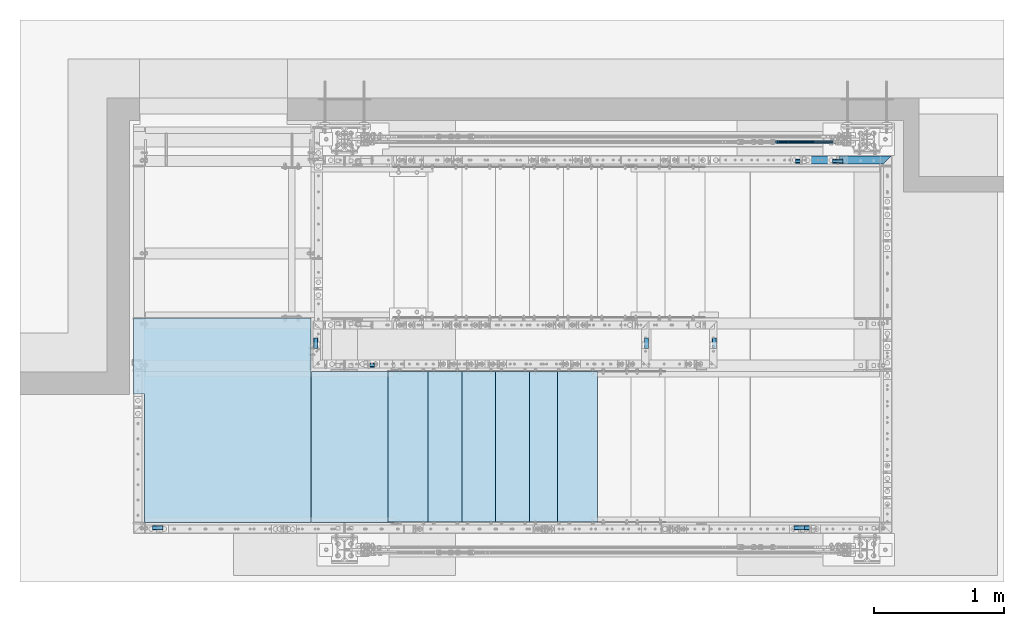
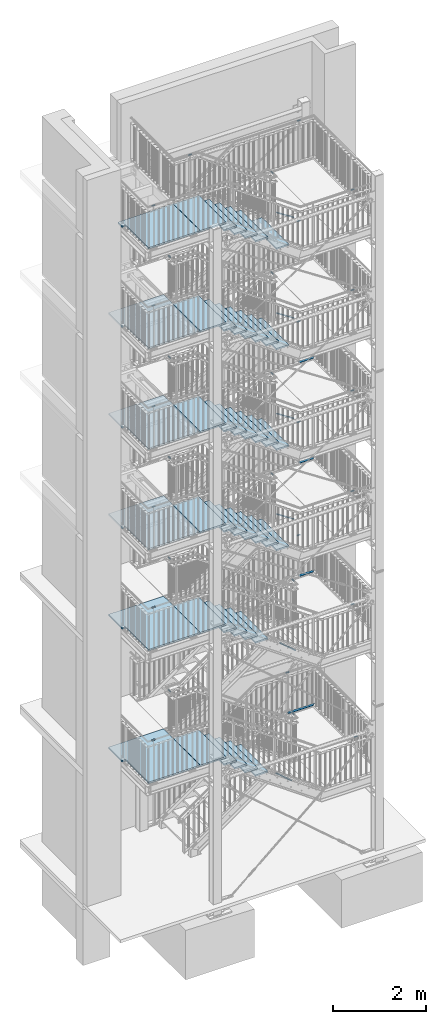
# One storey, part 144 of 831: 43 plates, 34 beams, 6 members, 9 openings.
"""IFC2X3 building model written with IfcOpenShell, lengths in millimetres."""

import ifcopenshell
import ifcopenshell.guid

model = None  # the IFC model being written
_history = None  # IfcOwnerHistory: only IFC2X3 demands one
_inside = {}  # id of a spatial element -> (the spatial element, [elements in it])
_under = {}  # id of a project, library or spatial element -> (it, [spatial elements below it])
_declared = {}  # id of a project -> (the project, [libraries it declares])
_typed = {}  # id of a type object -> (the type object, [elements of that type])
_made_of = {}  # id of a material, layer set ... -> (it, [elements and type objects made of it])


def new_model(schema):
    """Start an empty IFC model of exactly this schema.

    Asked for "IFC4X3", IfcOpenShell would pick the latest addendum, in which some entities
    have other attributes; the version numbers below select the first issue.
    IFC2X3 requires an IfcOwnerHistory on every rooted entity: one is made here for all.
    """
    global model, _history
    if schema == "IFC4X3":
        model = ifcopenshell.file(schema_version=(4, 3, 0, 0))
    else:
        model = ifcopenshell.file(schema=schema)
    _inside.clear()
    _under.clear()
    _declared.clear()
    _typed.clear()
    _made_of.clear()
    _history = None
    if model.schema == "IFC2X3":
        org = make("IfcOrganization", Name="unknown")
        user = make(
            "IfcPersonAndOrganization",
            ThePerson=make("IfcPerson", FamilyName="unknown"),
            TheOrganization=org,
        )
        app = make(
            "IfcApplication",
            ApplicationDeveloper=org,
            Version="unknown",
            ApplicationFullName="unknown",
            ApplicationIdentifier="unknown",
        )
        _history = make(
            "IfcOwnerHistory",
            OwningUser=user,
            OwningApplication=app,
            ChangeAction="ADDED",
            CreationDate=0,
        )
    return model


def make(cls, **values):
    """One entity of the class cls with the attributes given. An attribute that is None is left unset."""
    return model.create_entity(
        cls, **{name: value for name, value in values.items() if value is not None}
    )


def entity(cls, *values):
    """Any entity or typed value of the class cls, its attributes in the order of the schema. None: left unset."""
    e = model.create_entity(cls)
    for i, value in enumerate(values):
        if value is not None:
            e[i] = value
    return e


def rooted(cls, **values):
    """An entity with a GlobalId (a new one), such as an element, a storey or a relation."""
    return make(cls, GlobalId=ifcopenshell.guid.new(), OwnerHistory=_history, **values)


def si_unit(unit_type, name, prefix=None):
    """IfcSIUnit, for example si_unit("LENGTHUNIT", "METRE", prefix="MILLI")."""
    return make("IfcSIUnit", UnitType=unit_type, Prefix=prefix, Name=name)


def converted_unit(unit_type, name, factor, base, dimensions=None, offset=None):
    """IfcConversionBasedUnit, such as the inch: factor (a typed value) times the base unit."""
    return make(
        "IfcConversionBasedUnit"
        if offset is None
        else "IfcConversionBasedUnitWithOffset",
        ConversionOffset=offset,
        Dimensions=None
        if dimensions is None
        else entity("IfcDimensionalExponents", *dimensions),
        UnitType=unit_type,
        Name=name,
        ConversionFactor=make(
            "IfcMeasureWithUnit", ValueComponent=factor, UnitComponent=base
        ),
    )


def assignment(units):
    """IfcUnitAssignment: the units of a project."""
    return None if units is None else make("IfcUnitAssignment", Units=units)


def point(xyz):
    """IfcCartesianPoint."""
    return None if xyz is None else make("IfcCartesianPoint", Coordinates=xyz)


def direction(xyz):
    """IfcDirection."""
    return None if xyz is None else make("IfcDirection", DirectionRatios=xyz)


def frame(location, z_axis=None, x_axis=None):
    """IfcAxis2Placement3D, a coordinate frame: its origin and axes. An axis left out is left unset."""
    return make(
        "IfcAxis2Placement3D",
        Location=point(location),
        Axis=direction(z_axis),
        RefDirection=direction(x_axis),
    )


def frame_2d(location, x_axis=None):
    """IfcAxis2Placement2D, a coordinate frame in the plane: its origin and x axis."""
    return make(
        "IfcAxis2Placement2D", Location=point(location), RefDirection=direction(x_axis)
    )


def origin():
    """The frame at (0, 0, 0) with its axes left unset."""
    return frame((0.0, 0.0, 0.0))


def origin_with_axes():
    """The frame at (0, 0, 0) with the z axis (0, 0, 1) and the x axis (1, 0, 0) written out."""
    return frame((0.0, 0.0, 0.0), z_axis=(0.0, 0.0, 1.0), x_axis=(1.0, 0.0, 0.0))


def origin_2d():
    """The frame at (0, 0) in the plane with its x axis left unset."""
    return frame_2d((0.0, 0.0))


def origin_2d_with_axis():
    """The frame at (0, 0) in the plane with the x axis (1, 0) written out."""
    return frame_2d((0.0, 0.0), x_axis=(1.0, 0.0))


def place(relative_to, where):
    """IfcLocalPlacement: puts the frame where relative to a parent placement (None: the world)."""
    return make(
        "IfcLocalPlacement", PlacementRelTo=relative_to, RelativePlacement=where
    )


def context(
    kind, dimensions, precision=None, world=None, true_north=None, identifier=None
):
    """IfcGeometricRepresentationContext, for example the 3D "Model" context."""
    return make(
        "IfcGeometricRepresentationContext",
        ContextIdentifier=identifier,
        ContextType=kind,
        CoordinateSpaceDimension=dimensions,
        Precision=precision,
        WorldCoordinateSystem=world,
        TrueNorth=true_north,
    )


def project(units=None, contexts=None):
    """IfcProject with its units and contexts."""
    return rooted(
        "IfcProject",
        Name="project",
        RepresentationContexts=contexts,
        UnitsInContext=assignment(units),
    )


def spatial(cls, under=None, at=None, **own):
    """A site, building, storey or space (cls), placed at a placement, below another one or the project."""
    s = rooted(cls, ObjectPlacement=at, **own)
    if under is not None:
        _under.setdefault(under.id(), (under, []))[1].append(s)
    return s


def polyline(points):
    """IfcPolyline through the points."""
    return make("IfcPolyline", Points=[point(p) for p in points])


def profile(cls, at=None, kind="AREA", **sizes):
    """A parametric profile (cls). Its sizes go by their IFC names, for example OverallWidth=200.0."""
    return make(cls, ProfileType=kind, Position=at, **sizes)


def rectangle(**sizes):
    """IfcRectangleProfileDef."""
    return profile("IfcRectangleProfileDef", **sizes)


def circle(**sizes):
    """IfcCircleProfileDef."""
    return profile("IfcCircleProfileDef", **sizes)


def hollow_circle(**sizes):
    """IfcCircleHollowProfileDef."""
    return profile("IfcCircleHollowProfileDef", **sizes)


def outline(outer, holes=None, kind="AREA"):
    """IfcArbitraryClosedProfileDef: a profile drawn as a closed curve; with holes, ...WithVoids."""
    if holes is None:
        return make("IfcArbitraryClosedProfileDef", ProfileType=kind, OuterCurve=outer)
    return make(
        "IfcArbitraryProfileDefWithVoids",
        ProfileType=kind,
        OuterCurve=outer,
        InnerCurves=holes,
    )


def extrude(swept, where, along, depth):
    """IfcExtrudedAreaSolid: the profile swept, set in the frame where, extruded along a direction by depth."""
    return make(
        "IfcExtrudedAreaSolid",
        SweptArea=swept,
        Position=where,
        ExtrudedDirection=direction(along),
        Depth=depth,
    )


def clip(a, b, op="DIFFERENCE"):
    """IfcBooleanClippingResult: the solid a cut by the half space b."""
    return make(
        "IfcBooleanClippingResult", Operator=op, FirstOperand=a, SecondOperand=b
    )


def halfspace(plane, agree):
    """IfcHalfSpaceSolid: all space on one side of the plane z = 0 of the frame plane."""
    return make(
        "IfcHalfSpaceSolid",
        BaseSurface=make("IfcPlane", Position=plane),
        AgreementFlag=agree,
    )


def shape(context_of_items, identifier, shape_type, items):
    """IfcShapeRepresentation: the items that make up one representation, for example the "Body"."""
    return make(
        "IfcShapeRepresentation",
        ContextOfItems=context_of_items,
        RepresentationIdentifier=identifier,
        RepresentationType=shape_type,
        Items=items,
    )


def material(Name=None, Category=None):
    """IfcMaterial."""
    return make("IfcMaterial", Name=Name, Category=Category)


def layer(
    of_material, thickness, ventilated=None, Name=None, Category=None, Priority=None
):
    """IfcMaterialLayer: one layer of a wall or slab, of a material (None: an air gap)."""
    return make(
        "IfcMaterialLayer",
        Material=of_material,
        LayerThickness=thickness,
        IsVentilated=ventilated,
        Name=Name,
        Category=Category,
        Priority=Priority,
    )


def layer_set(layers, Name=None):
    """IfcMaterialLayerSet."""
    return make("IfcMaterialLayerSet", MaterialLayers=layers, LayerSetName=Name)


def made_of(thing, what):
    """Note that an element or type object is made of a material, layer set ...; save() writes the relation."""
    if what is not None:
        _made_of.setdefault(what.id(), (what, []))[1].append(thing)
    return thing


def element(
    cls,
    number,
    at=None,
    inside=None,
    cuts=None,
    type_object=None,
    material=None,
    context=None,
    identifier="Body",
    shape_type=None,
    held_by="IfcProductDefinitionShape",
    body=None,
    shapes=None,
    **own,
):
    """One element of the class cls, such as IfcWall. Its Tag is "e" and its number.

    at: its placement. inside: the storey or other place that contains it. cuts: it is an
    opening in that element (IfcRelVoidsElement). A single representation is given by context,
    identifier, shape_type and body (its items); several are given by shapes. held_by: the class
    of the entity that holds the representations. save() writes the other relations.
    """
    e = rooted(cls, Tag="e%d" % number, ObjectPlacement=at, **own)
    if body is not None:
        shapes = [shape(context, identifier, shape_type, body)]
    if shapes is not None:
        e.Representation = make(held_by, Representations=shapes)
    if inside is not None:
        _inside.setdefault(inside.id(), (inside, []))[1].append(e)
    if cuts is not None:
        rooted(
            "IfcRelVoidsElement", RelatingBuildingElement=cuts, RelatedOpeningElement=e
        )
    if type_object is not None:
        _typed.setdefault(type_object.id(), (type_object, []))[1].append(e)
    return made_of(e, material)


def aggregate(whole, parts):
    """IfcRelAggregates: a whole, such as a stair, and the parts it consists of."""
    return rooted("IfcRelAggregates", RelatingObject=whole, RelatedObjects=parts)


def save(model, path):
    """Write the relations noted so far, then the file.

    IfcRelAggregates (storeys below a building ...), IfcRelContainedInSpatialStructure (elements
    in a storey), IfcRelDefinesByType, IfcRelAssociatesMaterial and IfcRelDeclares: one each for
    every whole, place, type object, material and project.
    """
    for whole, parts in _under.values():
        aggregate(whole, parts)
    for where, things in _inside.values():
        rooted(
            "IfcRelContainedInSpatialStructure",
            RelatedElements=things,
            RelatingStructure=where,
        )
    for kind, things in _typed.values():
        rooted("IfcRelDefinesByType", RelatedObjects=things, RelatingType=kind)
    for what, things in _made_of.values():
        rooted("IfcRelAssociatesMaterial", RelatedObjects=things, RelatingMaterial=what)
    for by, libraries in _declared.values():
        rooted("IfcRelDeclares", RelatingContext=by, RelatedDefinitions=libraries)
    model.write(path)


model = new_model("IFC2X3")

# Units and contexts
model_context = context("Model", 3, precision=1e-09, world=origin_with_axes())
ifc_project = project(units=[si_unit("LENGTHUNIT", "METRE", prefix="MILLI"), si_unit("AREAUNIT", "SQUARE_METRE"), si_unit("VOLUMEUNIT", "CUBIC_METRE"), converted_unit("PLANEANGLEUNIT", "DEGREE", entity("IfcPlaneAngleMeasure", 0.01745329), si_unit("PLANEANGLEUNIT", "RADIAN"), dimensions=[0, 0, 0, 0, 0, 0, 0])], contexts=[model_context])

# Site, building, storey
site_placement = place(None, origin_with_axes())
site = spatial("IfcSite", under=ifc_project, at=site_placement, Name="Site", CompositionType="ELEMENT")
building_placement = place(site_placement, origin_with_axes())
building = spatial("IfcBuilding", under=site, at=building_placement, Name="Struktur 1", CompositionType="ELEMENT")
storey_placement = place(building_placement, origin_with_axes())
storey = spatial("IfcBuildingStorey", under=building, at=storey_placement, Name="Default Storey", CompositionType="ELEMENT", Elevation=0.0)

# Beams
ifc_material = material(Name="S235JR")
for number, where, z_axis, x_axis in (
    (1, (8387.674109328, 4535.536971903, 3321.0526312), (-1.0, 0.0, 0.0), (0.0, 0.0, -1.0)),
    (2, (8307.292260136, 4535.536971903, 6814.8947367), (-1.0, 0.0, 0.0), (0.0, 0.0, -1.0)),
    (3, (8307.292260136, 4535.536971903, 9776.0), (-1.0, 0.0, 0.0), (0.0, 0.0, -1.0)),
    (4, (8307.292260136, 4535.536971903, 12405.5000003), (-1.0, 0.0, 0.0), (0.0, 0.0, -1.0)),
    (5, (8307.292260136, 4535.536971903, 15036.5000001), (-1.0, 0.0, 0.0), (0.0, 0.0, -1.0)),
    (6, (8307.292260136, 4535.536971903, 17664.0000003), (-1.0, 0.0, 0.0), (0.0, 0.0, -1.0)),
    (7, (3382.288520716, 4535.536971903, 4987.0), (-1.0, 0.0, 0.0), (0.0, 0.0, -1.0)),
    (8, (3382.29154585, 4535.536971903, 8460.0), (-1.0, 0.0, 0.0), (0.0, 0.0, -1.0)),
    (9, (3382.29154585, 4535.536971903, 11092.0), (-1.0, 0.0, 0.0), (0.0, 0.0, -1.0)),
    (10, (3382.29154585, 4535.536971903, 13719.0), (-1.0, 0.0, 0.0), (0.0, 0.0, -1.0)),
    (11, (3382.29154585, 4535.536971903, 16354.0), (-1.0, 0.0, 0.0), (0.0, 0.0, -1.0)),
    (12, (3382.29154585, 4535.536971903, 18974.0), (-1.0, 0.0, 0.0), (0.0, 0.0, -1.0)),
    (13, (8318.444225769, 7347.936971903, 3321.0526312), (-1.0, 0.0, 0.0), (0.0, 0.0, -1.0)),
    (14, (8599.213974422, 7347.936971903, 6814.8947367), (-1.0, 0.0, 0.0), (0.0, 0.0, -1.0)),
    (15, (8599.213974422, 7347.936971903, 9776.0), (-1.0, 0.0, 0.0), (0.0, 0.0, -1.0)),
    (16, (8599.213974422, 7347.936971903, 12405.5000003), (-1.0, 0.0, 0.0), (0.0, 0.0, -1.0)),
    (17, (8599.213974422, 7347.936971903, 15036.5000001), (-1.0, 0.0, 0.0), (0.0, 0.0, -1.0)),
    (18, (8599.213974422, 7347.936971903, 17664.0000003), (-1.0, 0.0, 0.0), (0.0, 0.0, -1.0)),
):
    element("IfcBeam", number, at=place(None, frame(where, z_axis=z_axis, x_axis=x_axis)), inside=storey, material=ifc_material, Name="-", ObjectType="-", context=model_context, shape_type="SweptSolid", body=[
        extrude(hollow_circle(Radius=16.85, WallThickness=2.6, at=origin_2d()), origin(), (0.0, 0.0, -1.0), 80.748379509),
    ])
for number, where, z_axis, x_axis in (
    (19, (5086.713902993, 5782.936971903, 18974.0), (-1.0, 0.0, 0.0), (0.0, 0.0, -1.0)),
    (20, (4635.413402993, 5991.736971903, 4987.0), (0.0, -1.0, 0.0), (0.0, 0.0, -1.0)),
    (21, (4635.413402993, 5991.736971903, 8460.0), (0.0, -1.0, 0.0), (0.0, 0.0, -1.0)),
    (22, (4635.413402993, 5991.736971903, 11092.0), (0.0, -1.0, 0.0), (0.0, 0.0, -1.0)),
    (23, (4635.413402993, 5991.736971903, 13719.0), (0.0, -1.0, 0.0), (0.0, 0.0, -1.0)),
    (24, (4635.413402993, 5991.736971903, 16354.0), (0.0, -1.0, 0.0), (0.0, 0.0, -1.0)),
    (25, (7173.622212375, 5991.736971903, 17664.0000003), (0.0, -1.0, 0.0), (0.0, 0.0, -1.0)),
    (26, (7173.622212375, 5991.736971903, 15036.5000001), (0.0, -1.0, 0.0), (0.0, 0.0, -1.0)),
    (27, (7173.622212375, 5991.736971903, 12405.5000003), (0.0, -1.0, 0.0), (0.0, 0.0, -1.0)),
    (28, (7173.622212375, 5991.736971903, 9776.0), (0.0, -1.0, 0.0), (0.0, 0.0, -1.0)),
    (29, (7694.915085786, 5991.736971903, 6814.8947367), (0.0, -1.0, 0.0), (0.0, 0.0, -1.0)),
    (30, (7695.336342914, 5991.736971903, 3321.0526312), (0.0, -1.0, 0.0), (0.0, 0.0, -1.0)),
):
    element("IfcBeam", number, at=place(None, frame(where, z_axis=z_axis, x_axis=x_axis)), inside=storey, material=ifc_material, Name="-", ObjectType="-", context=model_context, shape_type="SweptSolid", body=[
        extrude(hollow_circle(Radius=16.85, WallThickness=2.6, at=origin_2d()), origin(), (0.0, 0.0, 1.0), 80.748379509),
    ])

# Members
for number, where, z_axis, x_axis in (
    (31, (8547.510615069, 7496.736971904, 334.785043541), (-0.757867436, 0.0, 0.652408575), (-0.652408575, 0.0, -0.757867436)),
    (32, (8640.321727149, 7496.736971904, 3708.074383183), (-0.755906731, 0.0, 0.654679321), (-0.654679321, 0.0, -0.755906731)),
    (33, (8601.628734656, 7496.736971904, 7158.990731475), (-0.83600607, 0.0, 0.548720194), (-0.548720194, 0.0, -0.83600607)),
    (34, (8601.477156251, 7496.736971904, 9790.759502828), (-0.83648421, 0.0, 0.547991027), (-0.547991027, 0.0, -0.83648421)),
    (35, (8601.719606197, 7496.736971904, 12418.129336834), (-0.835719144, 0.0, 0.549157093), (-0.549157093, 0.0, -0.835719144)),
    (36, (8601.264681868, 7496.736971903, 15052.435320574), (-0.837153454, 0.0, 0.546968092), (-0.546968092, 0.0, -0.837153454)),
):
    element("IfcMember", number, at=place(None, frame(where, z_axis=z_axis, x_axis=x_axis)), inside=storey, material=ifc_material, Name="-", ObjectType="-", context=model_context, shape_type="SweptSolid", body=[
        extrude(circle(Radius=11.0, at=origin_2d()), origin(), (0.0, 0.0, 1.0), 500.0),
    ])

# Beam, opening
beam_1_placement = place(None, frame((8371.444225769, 7356.736971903, 2246.0526312), z_axis=(-1.0, 0.0, 0.0), x_axis=(0.0, 0.0, -1.0)))
beam_1 = element("IfcBeam", 37, at=beam_1_placement, inside=storey, material=ifc_material, Name="Railing_Kneerail_Landing#5", ObjectType="Railing_Kneerail_Landing#5", context=model_context, shape_type="Clipping", body=[
    clip(extrude(rectangle(XDim=10.0, YDim=60.0, at=origin_2d()), origin(), (0.0, 0.0, -1.0), 693.28080356), halfspace(frame((2246.0526312, 8189.224480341, 7538.95671733), z_axis=(0.0, -0.707106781, 0.707106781), x_axis=(0.0, 0.707106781, 0.707106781)), True)),
])
opening_1_placement = place(beam_1_placement, frame((5.5, 0.0, -11.999999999), z_axis=(-1.0, 0.0, 0.0), x_axis=(0.0, 0.0, -1.0)))
element("IfcOpeningElement", 38, at=opening_1_placement, cuts=beam_1, ObjectType="Opening", context=model_context, shape_type="SweptSolid", body=[
    extrude(circle(Radius=5.001, at=origin_2d_with_axis()), origin(), (0.0, 0.0, 1.0), 11.0),
])

beam_2_placement = place(None, frame((8652.213974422, 7356.736971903, 5739.8947367), z_axis=(-1.0, 0.0, 0.0), x_axis=(0.0, 0.0, -1.0)))
beam_2 = element("IfcBeam", 39, at=beam_2_placement, inside=storey, material=ifc_material, Name="Railing_Kneerail_Landing#7", ObjectType="Railing_Kneerail_Landing#7", context=model_context, shape_type="Clipping", body=[
    clip(extrude(rectangle(XDim=10.0, YDim=60.0, at=origin_2d()), origin(), (0.0, 0.0, -1.0), 412.511054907), halfspace(frame((5739.8947367, 8189.224480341, 7819.726465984), z_axis=(0.0, -0.707106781, 0.707106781), x_axis=(0.0, 0.707106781, 0.707106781)), True)),
])
opening_2_placement = place(beam_2_placement, frame((5.5, 0.0, -11.999999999), z_axis=(-1.0, 0.0, 0.0), x_axis=(0.0, 0.0, -1.0)))
element("IfcOpeningElement", 40, at=opening_2_placement, cuts=beam_2, ObjectType="Opening", context=model_context, shape_type="SweptSolid", body=[
    extrude(circle(Radius=5.001, at=origin_2d_with_axis()), origin(), (0.0, 0.0, 1.0), 11.0),
])

beam_3_placement = place(None, frame((8652.213974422, 7356.736971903, 8701.0), z_axis=(-1.0, 0.0, 0.0), x_axis=(0.0, 0.0, -1.0)))
beam_3 = element("IfcBeam", 41, at=beam_3_placement, inside=storey, material=ifc_material, Name="Railing_Kneerail_Landing#7", ObjectType="Railing_Kneerail_Landing#7", context=model_context, shape_type="Clipping", body=[
    clip(extrude(rectangle(XDim=10.0, YDim=60.0, at=origin_2d()), origin(), (0.0, 0.0, -1.0), 412.511054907), halfspace(frame((8701.0, 8189.224480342, 7819.726465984), z_axis=(0.0, -0.707106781, 0.707106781), x_axis=(0.0, 0.707106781, 0.707106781)), True)),
])
opening_3_placement = place(beam_3_placement, frame((5.5, 0.0, -11.999999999), z_axis=(-1.0, 0.0, 0.0), x_axis=(0.0, 0.0, -1.0)))
element("IfcOpeningElement", 42, at=opening_3_placement, cuts=beam_3, ObjectType="Opening", context=model_context, shape_type="SweptSolid", body=[
    extrude(circle(Radius=5.001, at=origin_2d_with_axis()), origin(), (0.0, 0.0, 1.0), 11.0),
])

beam_4_placement = place(None, frame((8652.213974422, 7356.736971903, 11330.5000003), z_axis=(-1.0, 0.0, 0.0), x_axis=(0.0, 0.0, -1.0)))
beam_4 = element("IfcBeam", 43, at=beam_4_placement, inside=storey, material=ifc_material, Name="Railing_Kneerail_Landing#7", ObjectType="Railing_Kneerail_Landing#7", context=model_context, shape_type="Clipping", body=[
    clip(extrude(rectangle(XDim=10.0, YDim=60.0, at=origin_2d()), origin(), (0.0, 0.0, -1.0), 412.511054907), halfspace(frame((11330.5000003, 8189.224480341, 7819.726465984), z_axis=(0.0, -0.707106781, 0.707106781), x_axis=(0.0, 0.707106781, 0.707106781)), True)),
])
opening_4_placement = place(beam_4_placement, frame((5.5, 0.0, -11.999999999), z_axis=(-1.0, 0.0, 0.0), x_axis=(0.0, 0.0, -1.0)))
element("IfcOpeningElement", 44, at=opening_4_placement, cuts=beam_4, ObjectType="Opening", context=model_context, shape_type="SweptSolid", body=[
    extrude(circle(Radius=5.001, at=origin_2d_with_axis()), origin(), (0.0, 0.0, 1.0), 11.0),
])

# Plates
ifc_layer = layer(ifc_material, 40.0)
ifc_layer_set = layer_set([ifc_layer], Name="S235JR")
plate_1_placement = place(None, frame((5236.713402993, 5736.736971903, 17834.0), z_axis=(0.0, 0.0, 1.0), x_axis=(-1.0, 0.0, 0.0)))
element("IfcPlate", 45, at=plate_1_placement, inside=storey, material=ifc_layer_set, Name="TopCoverGrate", ObjectType="TopCoverGrate", context=model_context, shape_type="SweptSolid", body=[
    extrude(outline(polyline([(633.0, 0.0), (633.0, 1160.0), (0.0, 1160.0), (0.0, 0.0), (633.0, 0.0)])), origin_with_axes(), (0.0, 0.0, 1.0), 40.0),
])
plate_2_placement = place(None, frame((5236.713402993, 5736.736971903, 17834.0), z_axis=(0.0, 0.0, 1.0), x_axis=(-1.0, 0.0, 0.0)))
element("IfcPlate", 46, at=plate_2_placement, inside=storey, material=ifc_layer_set, Name="TopCoverGrate", ObjectType="TopCoverGrate", context=model_context, shape_type="SweptSolid", body=[
    extrude(outline(polyline([(635.0, 0.0), (2000.0, 0.0), (2000.0, 174.998), (1914.999, 174.998), (1914.999, 1160.0), (635.0, 1160.0), (635.0, 0.0)])), origin_with_axes(), (0.0, 0.0, 1.0), 40.0),
])

# Plate, opening
plate_3_placement = place(None, frame((5236.713402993, 5736.736971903, 15214.0), z_axis=(0.0, 0.0, 1.0), x_axis=(-1.0, 0.0, 0.0)))
plate_3 = element("IfcPlate", 47, at=plate_3_placement, inside=storey, material=ifc_layer_set, Name="TopCoverGrate", ObjectType="TopCoverGrate", context=model_context, shape_type="SweptSolid", body=[
    extrude(outline(polyline([(635.0, 1160.0), (635.0, -410.0), (2000.0, -410.0), (2000.0, 1160.0), (635.0, 1160.0)])), origin_with_axes(), (0.0, 0.0, 1.0), 40.0),
])
opening_5_placement = place(plate_3_placement, frame((0.0, 0.0, -0.1), z_axis=(0.0, 0.0, 1.0), x_axis=(1.0, 0.0, 0.0)))
element("IfcOpeningElement", 48, at=opening_5_placement, cuts=plate_3, ObjectType="Opening", context=model_context, shape_type="SweptSolid", body=[
    extrude(outline(polyline([(1914.999, 174.998), (2246.057647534, 174.998), (2246.057647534, 1445.257974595), (1914.999, 1445.257974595), (1914.999, 174.998)])), origin(), (0.0, 0.0, 1.0), 40.2),
])

# Plates
plate_4_placement = place(None, frame((5236.713402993, 5736.736971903, 15214.0), z_axis=(0.0, 0.0, 1.0), x_axis=(-1.0, 0.0, 0.0)))
element("IfcPlate", 49, at=plate_4_placement, inside=storey, material=ifc_layer_set, Name="TopCoverGrate", ObjectType="TopCoverGrate", context=model_context, shape_type="SweptSolid", body=[
    extrude(outline(polyline([(633.0, 1160.0), (0.0, 1160.0), (0.0, 0.0), (633.0, 0.0), (633.0, 1160.0)])), origin_with_axes(), (0.0, 0.0, 1.0), 40.0),
])
plate_5_placement = place(None, frame((5236.713402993, 5736.736971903, 12579.0), z_axis=(0.0, 0.0, 1.0), x_axis=(-1.0, 0.0, 0.0)))
element("IfcPlate", 50, at=plate_5_placement, inside=storey, material=ifc_layer_set, Name="TopCoverGrate", ObjectType="TopCoverGrate", context=model_context, shape_type="SweptSolid", body=[
    extrude(outline(polyline([(633.0, 0.0), (633.0, 1160.0), (0.0, 1160.0), (0.0, 0.0), (633.0, 0.0)])), origin_with_axes(), (0.0, 0.0, 1.0), 40.0),
])

# Plate, opening
plate_6_placement = place(None, frame((5236.713402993, 5736.736971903, 12579.0), z_axis=(0.0, 0.0, 1.0), x_axis=(-1.0, 0.0, 0.0)))
plate_6 = element("IfcPlate", 51, at=plate_6_placement, inside=storey, material=ifc_layer_set, Name="TopCoverGrate", ObjectType="TopCoverGrate", context=model_context, shape_type="SweptSolid", body=[
    extrude(outline(polyline([(635.0, -410.0), (2000.0, -410.0), (2000.0, 1160.0), (635.0, 1160.0), (635.0, -410.0)])), origin_with_axes(), (0.0, 0.0, 1.0), 40.0),
])
opening_6_placement = place(plate_6_placement, frame((0.0, 0.0, -0.1), z_axis=(0.0, 0.0, 1.0), x_axis=(1.0, 0.0, 0.0)))
element("IfcOpeningElement", 52, at=opening_6_placement, cuts=plate_6, ObjectType="Opening", context=model_context, shape_type="SweptSolid", body=[
    extrude(outline(polyline([(1914.999, 174.998), (2168.255794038, 174.998), (2168.255794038, 1438.11008275), (1914.999, 1438.11008275), (1914.999, 174.998)])), origin(), (0.0, 0.0, 1.0), 40.2),
])

# Plate
plate_7_placement = place(None, frame((5236.713402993, 5736.736971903, 9952.0), z_axis=(0.0, 0.0, 1.0), x_axis=(-1.0, 0.0, 0.0)))
element("IfcPlate", 53, at=plate_7_placement, inside=storey, material=ifc_layer_set, Name="TopCoverGrate", ObjectType="TopCoverGrate", context=model_context, shape_type="SweptSolid", body=[
    extrude(outline(polyline([(633.0, 0.0), (633.0, 1160.0), (0.0, 1160.0), (0.0, 0.0), (633.0, 0.0)])), origin_with_axes(), (0.0, 0.0, 1.0), 40.0),
])

# Plate, opening
plate_8_placement = place(None, frame((5236.713402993, 5736.736971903, 9952.0), z_axis=(0.0, 0.0, 1.0), x_axis=(-1.0, 0.0, 0.0)))
plate_8 = element("IfcPlate", 54, at=plate_8_placement, inside=storey, material=ifc_layer_set, Name="TopCoverGrate", ObjectType="TopCoverGrate", context=model_context, shape_type="SweptSolid", body=[
    extrude(outline(polyline([(635.0, -410.0), (2000.0, -410.0), (2000.0, 1160.0), (635.0, 1160.0), (635.0, -410.0)])), origin_with_axes(), (0.0, 0.0, 1.0), 40.0),
])
opening_7_placement = place(plate_8_placement, frame((0.0, 0.0, -0.1), z_axis=(0.0, 0.0, 1.0), x_axis=(1.0, 0.0, 0.0)))
element("IfcOpeningElement", 55, at=opening_7_placement, cuts=plate_8, ObjectType="Opening", context=model_context, shape_type="SweptSolid", body=[
    extrude(outline(polyline([(1914.999, 174.998), (2156.474362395, 174.998), (2156.474362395, 1320.832230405), (1914.999, 1320.832230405), (1914.999, 174.998)])), origin(), (0.0, 0.0, 1.0), 40.2),
])

# Plate
plate_9_placement = place(None, frame((5236.713402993, 5736.736971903, 7320.0), z_axis=(0.0, 0.0, 1.0), x_axis=(-1.0, 0.0, 0.0)))
element("IfcPlate", 56, at=plate_9_placement, inside=storey, material=ifc_layer_set, Name="TopCoverGrate", ObjectType="TopCoverGrate", context=model_context, shape_type="SweptSolid", body=[
    extrude(outline(polyline([(633.0, 0.0), (633.0, 1160.0), (0.0, 1160.0), (0.0, 0.0), (633.0, 0.0)])), origin_with_axes(), (0.0, 0.0, 1.0), 40.0),
])

# Plate, opening
plate_10_placement = place(None, frame((5236.713402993, 5736.736971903, 7320.0), z_axis=(0.0, 0.0, 1.0), x_axis=(-1.0, 0.0, 0.0)))
plate_10 = element("IfcPlate", 57, at=plate_10_placement, inside=storey, material=ifc_layer_set, Name="TopCoverGrate", ObjectType="TopCoverGrate", context=model_context, shape_type="SweptSolid", body=[
    extrude(outline(polyline([(635.0, -410.0), (2000.0, -410.0), (2000.0, 1160.0), (635.0, 1160.0), (635.0, -410.0)])), origin_with_axes(), (0.0, 0.0, 1.0), 40.0),
])
opening_8_placement = place(plate_10_placement, frame((0.0, 0.0, -0.1), z_axis=(0.0, 0.0, 1.0), x_axis=(1.0, 0.0, 0.0)))
element("IfcOpeningElement", 58, at=opening_8_placement, cuts=plate_10, ObjectType="Opening", context=model_context, shape_type="SweptSolid", body=[
    extrude(outline(polyline([(1914.999, 174.998), (2204.215042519, 174.998), (2204.215042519, 1396.888781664), (1914.999, 1396.888781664), (1914.999, 174.998)])), origin(), (0.0, 0.0, 1.0), 40.2),
])

# Plate
plate_11_placement = place(None, frame((5236.713402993, 5736.736971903, 3847.0), z_axis=(0.0, 0.0, 1.0), x_axis=(-1.0, 0.0, 0.0)))
element("IfcPlate", 59, at=plate_11_placement, inside=storey, material=ifc_layer_set, Name="TopCoverGrate", ObjectType="TopCoverGrate", context=model_context, shape_type="SweptSolid", body=[
    extrude(outline(polyline([(633.0, 0.0), (633.0, 1160.0), (0.0, 1160.0), (0.0, 0.0), (633.0, 0.0)])), origin_with_axes(), (0.0, 0.0, 1.0), 40.0),
])

# Plate, opening
plate_12_placement = place(None, frame((5236.713402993, 5736.736971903, 3847.0), z_axis=(0.0, 0.0, 1.0), x_axis=(-1.0, 0.0, 0.0)))
plate_12 = element("IfcPlate", 60, at=plate_12_placement, inside=storey, material=ifc_layer_set, Name="TopCoverGrate", ObjectType="TopCoverGrate", context=model_context, shape_type="SweptSolid", body=[
    extrude(outline(polyline([(635.0, -410.0), (2000.0, -410.0), (2000.0, 1160.0), (635.0, 1160.0), (635.0, -410.0)])), origin_with_axes(), (0.0, 0.0, 1.0), 40.0),
])
opening_9_placement = place(plate_12_placement, frame((0.0, 0.0, -0.1), z_axis=(0.0, 0.0, 1.0), x_axis=(1.0, 0.0, 0.0)))
element("IfcOpeningElement", 61, at=opening_9_placement, cuts=plate_12, ObjectType="Opening", context=model_context, shape_type="SweptSolid", body=[
    extrude(outline(polyline([(1914.999, 174.998), (2203.687541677, 174.998), (2203.687541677, 1310.690591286), (1914.999, 1310.690591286), (1914.999, 174.998)])), origin(), (0.0, 0.0, 1.0), 40.2),
])

# Plates
plate_13_placement = place(None, frame((6124.213402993, 5156.736971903, 9200.0), z_axis=(0.0, 0.0, 1.0), x_axis=(0.0, -1.0, 0.0)))
element("IfcPlate", 62, at=plate_13_placement, inside=storey, material=ifc_layer_set, Name="Grate_Step#15", ObjectType="Grate_Step#15", context=model_context, shape_type="SweptSolid", body=[
    extrude(outline(polyline([(-577.0, -152.5), (577.0, -152.5), (577.0, 152.5), (-577.0, 152.5), (-577.0, -152.5)])), origin_with_axes(), (0.0, 0.0, 1.0), 40.0),
])
plate_14_placement = place(None, frame((5864.213402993, 5156.736971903, 9388.0), z_axis=(0.0, 0.0, 1.0), x_axis=(0.0, -1.0, 0.0)))
element("IfcPlate", 63, at=plate_14_placement, inside=storey, material=ifc_layer_set, Name="Grate_Step#22", ObjectType="Grate_Step#22", context=model_context, shape_type="SweptSolid", body=[
    extrude(outline(polyline([(-577.0, -152.5), (577.0, -152.5), (577.0, 152.5), (-577.0, 152.5), (-577.0, -152.5)])), origin_with_axes(), (0.0, 0.0, 1.0), 40.0),
])
plate_15_placement = place(None, frame((6644.213402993, 5156.736971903, 8824.0), z_axis=(0.0, 0.0, 1.0), x_axis=(0.0, -1.0, 0.0)))
element("IfcPlate", 64, at=plate_15_placement, inside=storey, material=ifc_layer_set, Name="Grate_Step#1", ObjectType="Grate_Step#1", context=model_context, shape_type="SweptSolid", body=[
    extrude(outline(polyline([(-577.0, -152.5), (577.0, -152.5), (577.0, 152.5), (-577.0, 152.5), (-577.0, -152.5)])), origin_with_axes(), (0.0, 0.0, 1.0), 40.0),
])
plate_16_placement = place(None, frame((5604.213402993, 5156.736971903, 9576.0), z_axis=(0.0, 0.0, 1.0), x_axis=(0.0, -1.0, 0.0)))
element("IfcPlate", 65, at=plate_16_placement, inside=storey, material=ifc_layer_set, Name="Grate_Step#29", ObjectType="Grate_Step#29", context=model_context, shape_type="SweptSolid", body=[
    extrude(outline(polyline([(-577.0, -152.5), (577.0, -152.5), (577.0, 152.5), (-577.0, 152.5), (-577.0, -152.5)])), origin_with_axes(), (0.0, 0.0, 1.0), 40.0),
])
plate_17_placement = place(None, frame((5344.213402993, 5156.736971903, 9764.0), z_axis=(0.0, 0.0, 1.0), x_axis=(0.0, -1.0, 0.0)))
element("IfcPlate", 66, at=plate_17_placement, inside=storey, material=ifc_layer_set, Name="Grate_Step#36", ObjectType="Grate_Step#36", context=model_context, shape_type="SweptSolid", body=[
    extrude(outline(polyline([(-577.0, -152.5), (577.0, -152.5), (577.0, 152.5), (-577.0, 152.5), (-577.0, -152.5)])), origin_with_axes(), (0.0, 0.0, 1.0), 40.0),
])
plate_18_placement = place(None, frame((6384.213402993, 5156.736971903, 9012.0), z_axis=(0.0, 0.0, 1.0), x_axis=(0.0, -1.0, 0.0)))
element("IfcPlate", 67, at=plate_18_placement, inside=storey, material=ifc_layer_set, Name="Grate_Step#8", ObjectType="Grate_Step#8", context=model_context, shape_type="SweptSolid", body=[
    extrude(outline(polyline([(-577.0, -152.5), (577.0, -152.5), (577.0, 152.5), (-577.0, 152.5), (-577.0, -152.5)])), origin_with_axes(), (0.0, 0.0, 1.0), 40.0),
])
plate_19_placement = place(None, frame((6124.213402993, 5156.736971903, 11828.4285716), z_axis=(0.0, 0.0, 1.0), x_axis=(0.0, -1.0, 0.0)))
element("IfcPlate", 68, at=plate_19_placement, inside=storey, material=ifc_layer_set, Name="Grate_Step#15", ObjectType="Grate_Step#15", context=model_context, shape_type="SweptSolid", body=[
    extrude(outline(polyline([(-577.0, -152.5), (577.0, -152.5), (577.0, 152.5), (-577.0, 152.5), (-577.0, -152.5)])), origin_with_axes(), (0.0, 0.0, 1.0), 40.0),
])
plate_20_placement = place(None, frame((5864.213402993, 5156.736971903, 12016.0714287), z_axis=(0.0, 0.0, 1.0), x_axis=(0.0, -1.0, 0.0)))
element("IfcPlate", 69, at=plate_20_placement, inside=storey, material=ifc_layer_set, Name="Grate_Step#22", ObjectType="Grate_Step#22", context=model_context, shape_type="SweptSolid", body=[
    extrude(outline(polyline([(-577.0, -152.5), (577.0, -152.5), (577.0, 152.5), (-577.0, 152.5), (-577.0, -152.5)])), origin_with_axes(), (0.0, 0.0, 1.0), 40.0),
])
plate_21_placement = place(None, frame((6644.213402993, 5156.736971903, 11453.1428574), z_axis=(0.0, 0.0, 1.0), x_axis=(0.0, -1.0, 0.0)))
element("IfcPlate", 70, at=plate_21_placement, inside=storey, material=ifc_layer_set, Name="Grate_Step#1", ObjectType="Grate_Step#1", context=model_context, shape_type="SweptSolid", body=[
    extrude(outline(polyline([(-577.0, -152.5), (577.0, -152.5), (577.0, 152.5), (-577.0, 152.5), (-577.0, -152.5)])), origin_with_axes(), (0.0, 0.0, 1.0), 40.0),
])
plate_22_placement = place(None, frame((5604.213402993, 5156.736971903, 12203.7142858), z_axis=(0.0, 0.0, 1.0), x_axis=(0.0, -1.0, 0.0)))
element("IfcPlate", 71, at=plate_22_placement, inside=storey, material=ifc_layer_set, Name="Grate_Step#29", ObjectType="Grate_Step#29", context=model_context, shape_type="SweptSolid", body=[
    extrude(outline(polyline([(-577.0, -152.5), (577.0, -152.5), (577.0, 152.5), (-577.0, 152.5), (-577.0, -152.5)])), origin_with_axes(), (0.0, 0.0, 1.0), 40.0),
])
plate_23_placement = place(None, frame((5344.213402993, 5156.736971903, 12391.3571429), z_axis=(0.0, 0.0, 1.0), x_axis=(0.0, -1.0, 0.0)))
element("IfcPlate", 72, at=plate_23_placement, inside=storey, material=ifc_layer_set, Name="Grate_Step#36", ObjectType="Grate_Step#36", context=model_context, shape_type="SweptSolid", body=[
    extrude(outline(polyline([(-577.0, -152.5), (577.0, -152.5), (577.0, 152.5), (-577.0, 152.5), (-577.0, -152.5)])), origin_with_axes(), (0.0, 0.0, 1.0), 40.0),
])
plate_24_placement = place(None, frame((6384.213402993, 5156.736971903, 11640.7857145), z_axis=(0.0, 0.0, 1.0), x_axis=(0.0, -1.0, 0.0)))
element("IfcPlate", 73, at=plate_24_placement, inside=storey, material=ifc_layer_set, Name="Grate_Step#8", ObjectType="Grate_Step#8", context=model_context, shape_type="SweptSolid", body=[
    extrude(outline(polyline([(-577.0, -152.5), (577.0, -152.5), (577.0, 152.5), (-577.0, 152.5), (-577.0, -152.5)])), origin_with_axes(), (0.0, 0.0, 1.0), 40.0),
])
plate_25_placement = place(None, frame((6124.213402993, 5156.736971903, 14461.1428572), z_axis=(0.0, 0.0, 1.0), x_axis=(0.0, -1.0, 0.0)))
element("IfcPlate", 74, at=plate_25_placement, inside=storey, material=ifc_layer_set, Name="Grate_Step#15", ObjectType="Grate_Step#15", context=model_context, shape_type="SweptSolid", body=[
    extrude(outline(polyline([(-577.0, -152.5), (577.0, -152.5), (577.0, 152.5), (-577.0, 152.5), (-577.0, -152.5)])), origin_with_axes(), (0.0, 0.0, 1.0), 40.0),
])
plate_26_placement = place(None, frame((5864.213402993, 5156.736971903, 14649.3571429), z_axis=(0.0, 0.0, 1.0), x_axis=(0.0, -1.0, 0.0)))
element("IfcPlate", 75, at=plate_26_placement, inside=storey, material=ifc_layer_set, Name="Grate_Step#22", ObjectType="Grate_Step#22", context=model_context, shape_type="SweptSolid", body=[
    extrude(outline(polyline([(-577.0, -152.5), (577.0, -152.5), (577.0, 152.5), (-577.0, 152.5), (-577.0, -152.5)])), origin_with_axes(), (0.0, 0.0, 1.0), 40.0),
])
plate_27_placement = place(None, frame((6644.213402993, 5156.736971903, 14084.7142858), z_axis=(0.0, 0.0, 1.0), x_axis=(0.0, -1.0, 0.0)))
element("IfcPlate", 76, at=plate_27_placement, inside=storey, material=ifc_layer_set, Name="Grate_Step#1", ObjectType="Grate_Step#1", context=model_context, shape_type="SweptSolid", body=[
    extrude(outline(polyline([(-577.0, -152.5), (577.0, -152.5), (577.0, 152.5), (-577.0, 152.5), (-577.0, -152.5)])), origin_with_axes(), (0.0, 0.0, 1.0), 40.0),
])
plate_28_placement = place(None, frame((5604.213402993, 5156.736971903, 14837.5714286), z_axis=(0.0, 0.0, 1.0), x_axis=(0.0, -1.0, 0.0)))
element("IfcPlate", 77, at=plate_28_placement, inside=storey, material=ifc_layer_set, Name="Grate_Step#29", ObjectType="Grate_Step#29", context=model_context, shape_type="SweptSolid", body=[
    extrude(outline(polyline([(-577.0, -152.5), (577.0, -152.5), (577.0, 152.5), (-577.0, 152.5), (-577.0, -152.5)])), origin_with_axes(), (0.0, 0.0, 1.0), 40.0),
])
plate_29_placement = place(None, frame((5344.213402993, 5156.736971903, 15025.7857143), z_axis=(0.0, 0.0, 1.0), x_axis=(0.0, -1.0, 0.0)))
element("IfcPlate", 78, at=plate_29_placement, inside=storey, material=ifc_layer_set, Name="Grate_Step#36", ObjectType="Grate_Step#36", context=model_context, shape_type="SweptSolid", body=[
    extrude(outline(polyline([(-577.0, -152.5), (577.0, -152.5), (577.0, 152.5), (-577.0, 152.5), (-577.0, -152.5)])), origin_with_axes(), (0.0, 0.0, 1.0), 40.0),
])
plate_30_placement = place(None, frame((6384.213402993, 5156.736971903, 14272.9285715), z_axis=(0.0, 0.0, 1.0), x_axis=(0.0, -1.0, 0.0)))
element("IfcPlate", 79, at=plate_30_placement, inside=storey, material=ifc_layer_set, Name="Grate_Step#8", ObjectType="Grate_Step#8", context=model_context, shape_type="SweptSolid", body=[
    extrude(outline(polyline([(-577.0, -152.5), (577.0, -152.5), (577.0, 152.5), (-577.0, 152.5), (-577.0, -152.5)])), origin_with_axes(), (0.0, 0.0, 1.0), 40.0),
])
plate_31_placement = place(None, frame((6124.213402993, 5156.736971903, 17085.4285716), z_axis=(0.0, 0.0, 1.0), x_axis=(0.0, -1.0, 0.0)))
element("IfcPlate", 80, at=plate_31_placement, inside=storey, material=ifc_layer_set, Name="Grate_Step#15", ObjectType="Grate_Step#15", context=model_context, shape_type="SweptSolid", body=[
    extrude(outline(polyline([(-577.0, -152.5), (577.0, -152.5), (577.0, 152.5), (-577.0, 152.5), (-577.0, -152.5)])), origin_with_axes(), (0.0, 0.0, 1.0), 40.0),
])
plate_32_placement = place(None, frame((5864.213402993, 5156.736971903, 17272.5714287), z_axis=(0.0, 0.0, 1.0), x_axis=(0.0, -1.0, 0.0)))
element("IfcPlate", 81, at=plate_32_placement, inside=storey, material=ifc_layer_set, Name="Grate_Step#22", ObjectType="Grate_Step#22", context=model_context, shape_type="SweptSolid", body=[
    extrude(outline(polyline([(-577.0, -152.5), (577.0, -152.5), (577.0, 152.5), (-577.0, 152.5), (-577.0, -152.5)])), origin_with_axes(), (0.0, 0.0, 1.0), 40.0),
])
plate_33_placement = place(None, frame((6644.213402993, 5156.736971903, 16711.1428574), z_axis=(0.0, 0.0, 1.0), x_axis=(0.0, -1.0, 0.0)))
element("IfcPlate", 82, at=plate_33_placement, inside=storey, material=ifc_layer_set, Name="Grate_Step#1", ObjectType="Grate_Step#1", context=model_context, shape_type="SweptSolid", body=[
    extrude(outline(polyline([(-577.0, -152.5), (577.0, -152.5), (577.0, 152.5), (-577.0, 152.5), (-577.0, -152.5)])), origin_with_axes(), (0.0, 0.0, 1.0), 40.0),
])
plate_34_placement = place(None, frame((5604.213402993, 5156.736971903, 17459.7142858), z_axis=(0.0, 0.0, 1.0), x_axis=(0.0, -1.0, 0.0)))
element("IfcPlate", 83, at=plate_34_placement, inside=storey, material=ifc_layer_set, Name="Grate_Step#29", ObjectType="Grate_Step#29", context=model_context, shape_type="SweptSolid", body=[
    extrude(outline(polyline([(-577.0, -152.5), (577.0, -152.5), (577.0, 152.5), (-577.0, 152.5), (-577.0, -152.5)])), origin_with_axes(), (0.0, 0.0, 1.0), 40.0),
])
plate_35_placement = place(None, frame((5344.213402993, 5156.736971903, 17646.8571429), z_axis=(0.0, 0.0, 1.0), x_axis=(0.0, -1.0, 0.0)))
element("IfcPlate", 84, at=plate_35_placement, inside=storey, material=ifc_layer_set, Name="Grate_Step#36", ObjectType="Grate_Step#36", context=model_context, shape_type="SweptSolid", body=[
    extrude(outline(polyline([(-577.0, -152.5), (577.0, -152.5), (577.0, 152.5), (-577.0, 152.5), (-577.0, -152.5)])), origin_with_axes(), (0.0, 0.0, 1.0), 40.0),
])
plate_36_placement = place(None, frame((5604.213402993, 5156.736971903, 3476.7894736), z_axis=(0.0, 0.0, 1.0), x_axis=(0.0, -1.0, 0.0)))
element("IfcPlate", 85, at=plate_36_placement, inside=storey, material=ifc_layer_set, Name="Grate_Step#43", ObjectType="Grate_Step#43", context=model_context, shape_type="SweptSolid", body=[
    extrude(outline(polyline([(-577.0, -152.5), (577.0, -152.5), (577.0, 152.5), (-577.0, 152.5), (-577.0, -152.5)])), origin_with_axes(), (0.0, 0.0, 1.0), 40.0),
])
for number, where, z_axis, x_axis, name in (
    (86, (5864.213402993, 5156.736971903, 3291.6842104), (0.0, 0.0, 1.0), (0.0, -1.0, 0.0), "Grate_Step#36"),
    (87, (5864.213402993, 5156.736971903, 6771.6315789), (0.0, 0.0, 1.0), (0.0, -1.0, 0.0), "Grate_Step#36"),
):
    element("IfcPlate", number, at=place(None, frame(where, z_axis=z_axis, x_axis=x_axis)), inside=storey, material=ifc_layer_set, Name=name, ObjectType="Grate_Step#36", context=model_context, shape_type="SweptSolid", body=[
        extrude(outline(polyline([(-577.0, -152.5), (577.0, -152.5), (577.0, 152.5), (-577.0, 152.5), (-577.0, -152.5)])), origin_with_axes(), (0.0, 0.0, 1.0), 40.0),
    ])
plate_37_placement = place(None, frame((6124.213402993, 5156.736971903, 6588.8421052), z_axis=(0.0, 0.0, 1.0), x_axis=(0.0, -1.0, 0.0)))
element("IfcPlate", 88, at=plate_37_placement, inside=storey, material=ifc_layer_set, Name="Grate_Step#29", ObjectType="Grate_Step#29", context=model_context, shape_type="SweptSolid", body=[
    extrude(outline(polyline([(-577.0, -152.5), (577.0, -152.5), (577.0, 152.5), (-577.0, 152.5), (-577.0, -152.5)])), origin_with_axes(), (0.0, 0.0, 1.0), 40.0),
])
for number, where, z_axis, x_axis, name in (
    (89, (5344.213402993, 5156.736971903, 7137.2105263), (0.0, 0.0, 1.0), (0.0, -1.0, 0.0), "Grate_Step#50"),
    (90, (5344.213402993, 5156.736971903, 3661.8947368), (0.0, 0.0, 1.0), (0.0, -1.0, 0.0), "Grate_Step#50"),
):
    element("IfcPlate", number, at=place(None, frame(where, z_axis=z_axis, x_axis=x_axis)), inside=storey, material=ifc_layer_set, Name=name, ObjectType="Grate_Step#50", context=model_context, shape_type="SweptSolid", body=[
        extrude(outline(polyline([(-577.0, -152.5), (577.0, -152.5), (577.0, 152.5), (-577.0, 152.5), (-577.0, -152.5)])), origin_with_axes(), (0.0, 0.0, 1.0), 40.0),
    ])
plate_38_placement = place(None, frame((6124.213402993, 5156.736971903, 3106.5789472), z_axis=(0.0, 0.0, 1.0), x_axis=(0.0, -1.0, 0.0)))
element("IfcPlate", 91, at=plate_38_placement, inside=storey, material=ifc_layer_set, Name="Grate_Step#29", ObjectType="Grate_Step#29", context=model_context, shape_type="SweptSolid", body=[
    extrude(outline(polyline([(-577.0, -152.5), (577.0, -152.5), (577.0, 152.5), (-577.0, 152.5), (-577.0, -152.5)])), origin_with_axes(), (0.0, 0.0, 1.0), 40.0),
])
plate_39_placement = place(None, frame((5604.213402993, 5156.736971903, 6954.4210526), z_axis=(0.0, 0.0, 1.0), x_axis=(0.0, -1.0, 0.0)))
element("IfcPlate", 92, at=plate_39_placement, inside=storey, material=ifc_layer_set, Name="Grate_Step#43", ObjectType="Grate_Step#43", context=model_context, shape_type="SweptSolid", body=[
    extrude(outline(polyline([(-577.0, -152.5), (577.0, -152.5), (577.0, 152.5), (-577.0, 152.5), (-577.0, -152.5)])), origin_with_axes(), (0.0, 0.0, 1.0), 40.0),
])

save(model, "model.ifc")
